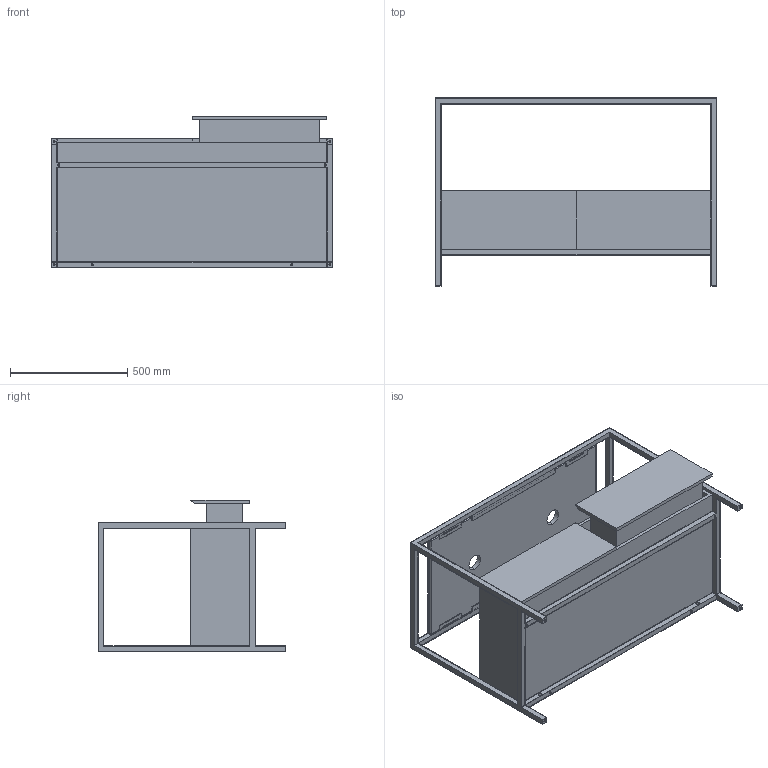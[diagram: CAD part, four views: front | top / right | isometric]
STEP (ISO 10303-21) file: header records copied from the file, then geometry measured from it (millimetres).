
FILE_DESCRIPTION (( 'STEP AP203' ), '1' );
FILE_NAME ('STA 120 03.STEP', '2019-02-04T13:51:05', ( '' ), ( '' ), 'SwSTEP 2.0', 'SolidWorks 2019', '' );
FILE_SCHEMA (( 'CONFIG_CONTROL_DESIGN' ));
Length unit declared in the file: millimetre
Products named in the file (7): CASSETTO 57,5; assieme CASSETTONE 120; PIANO MISURA 1000X495 2f; struttura STAND 120; SCOCCA STAND 120; STA 120 03; Ass STAND 120 PIANO 100 1f
Assembly tree (7 placements, depth 3):
  STA 120 03
    Ass STAND 120 PIANO 100 1f
      struttura STAND 120
    PIANO MISURA 1000X495 2f
    assieme CASSETTONE 120
      SCOCCA STAND 120
      CASSETTO 57,5  x2
Bounding box: 1200 x 800 x 645.03 mm (x, y, z)
Volume: 48850853.5 mm3; surface area: 9265259.8 mm2
Topology: 5 solids, 5 shells, 228 faces, 608 edges, 376 vertices
Faces by surface type: plane 164, cylinder 56, sphere 8
Entity records: 7379 total; most frequent: CARTESIAN_POINT 1141, ORIENTED_EDGE 1128, DIRECTION 1126, EDGE_CURVE 564, LINE 452, VECTOR 452, VERTEX_POINT 352, AXIS2_PLACEMENT_3D 337
